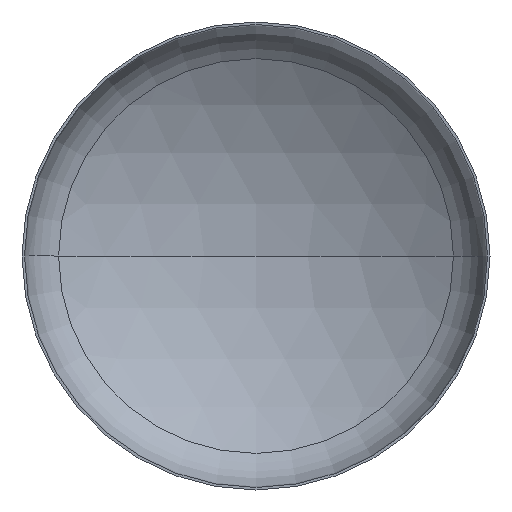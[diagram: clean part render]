
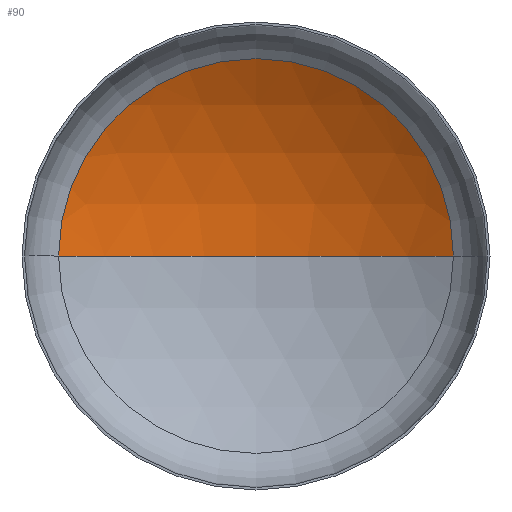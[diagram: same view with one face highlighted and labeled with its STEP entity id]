
A CAD part, front view. The second image highlights one B-rep face of the part: STEP entity #90.
In plain terms, the highlighted spherical face has radius 6000 mm.
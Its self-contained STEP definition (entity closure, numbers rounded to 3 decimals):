
#3 = DIRECTION ( 'NONE',  ( 1., 0., 0. ) ) ;
#8 = VERTEX_POINT ( 'NONE', #22 ) ;
#22 = CARTESIAN_POINT ( 'NONE',  ( -3162.848, 1111.493, 0. ) ) ;
#30 = VERTEX_POINT ( 'NONE', #243 ) ;
#46 = ORIENTED_EDGE ( 'NONE', *, *, #134, .F. ) ;
#56 = AXIS2_PLACEMENT_3D ( 'NONE', #107, #171, #3 ) ;
#59 = AXIS2_PLACEMENT_3D ( 'NONE', #173, #230, #388 ) ;
#61 = AXIS2_PLACEMENT_3D ( 'NONE', #206, #199, #197 ) ;
#90 = ADVANCED_FACE ( 'NONE', ( #205 ), #401, .F. ) ;
#92 = AXIS2_PLACEMENT_3D ( 'NONE', #232, #233, #219 ) ;
#107 = CARTESIAN_POINT ( 'NONE',  ( 0., -3987.172, 0. ) ) ;
#124 = EDGE_CURVE ( 'NONE', #30, #8, #332, .T. ) ;
#129 = EDGE_CURVE ( 'NONE', #164, #30, #392, .T. ) ;
#134 = EDGE_CURVE ( 'NONE', #164, #8, #213, .T. ) ;
#135 = CARTESIAN_POINT ( 'NONE',  ( 0., 2012.828, 0. ) ) ;
#164 = VERTEX_POINT ( 'NONE', #135 ) ;
#168 = EDGE_LOOP ( 'NONE', ( #46, #196, #177 ) ) ;
#171 = DIRECTION ( 'NONE',  ( 0., 0., 1. ) ) ;
#173 = CARTESIAN_POINT ( 'NONE',  ( 0., -3987.172, 0. ) ) ;
#177 = ORIENTED_EDGE ( 'NONE', *, *, #124, .T. ) ;
#196 = ORIENTED_EDGE ( 'NONE', *, *, #129, .T. ) ;
#197 = DIRECTION ( 'NONE',  ( 1., 0., 0. ) ) ;
#199 = DIRECTION ( 'NONE',  ( 0., -1., 0. ) ) ;
#205 = FACE_OUTER_BOUND ( 'NONE', #168, .T. ) ;
#206 = CARTESIAN_POINT ( 'NONE',  ( 0., 1111.493, 0. ) ) ;
#213 = CIRCLE ( 'NONE', #56, 6000. ) ;
#219 = DIRECTION ( 'NONE',  ( -1., 0., 0. ) ) ;
#230 = DIRECTION ( 'NONE',  ( 0., 0., -1. ) ) ;
#232 = CARTESIAN_POINT ( 'NONE',  ( 0., -3987.172, 0. ) ) ;
#233 = DIRECTION ( 'NONE',  ( 0., 0., -1. ) ) ;
#243 = CARTESIAN_POINT ( 'NONE',  ( 3162.848, 1111.493, 0. ) ) ;
#332 = CIRCLE ( 'NONE', #61, 3162.848 ) ;
#388 = DIRECTION ( 'NONE',  ( -1., 0., 0. ) ) ;
#392 = CIRCLE ( 'NONE', #59, 6000. ) ;
#401 = SPHERICAL_SURFACE ( 'NONE', #92, 6000. ) ;
